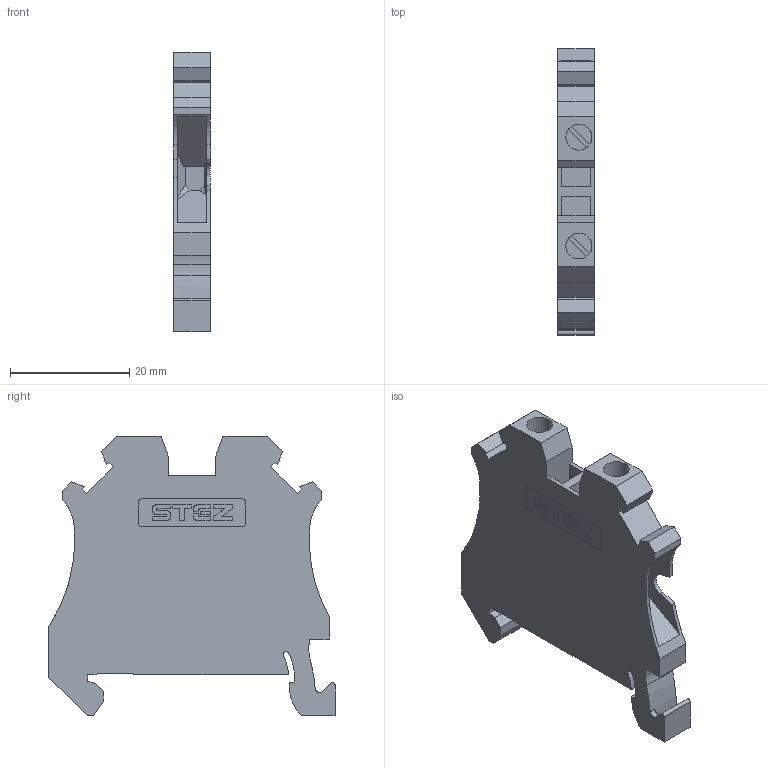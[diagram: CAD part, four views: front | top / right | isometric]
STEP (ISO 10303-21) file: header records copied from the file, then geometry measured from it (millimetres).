
FILE_DESCRIPTION(('TFLEX Exchange Step'),'2;1');
FILE_NAME('11000017_KHB_4-2-O.stp', '2023-10-03T09:31:03+03:00',('apanin'),('Unknown organisation'),'TFLEX Exchange 2023.0','T-FLEX CAD','Unknown authorisation');
FILE_SCHEMA( ('AUTOMOTIVE_DESIGN { 1 0 10303 214 1 1 1 1 }') );
Length unit declared in the file: millimetre
Products named in the file (1): Тело_1 - 1:1
Bounding box: 6.15 x 48 x 46.85 mm (x, y, z)
Volume: 8334.2 mm3; surface area: 5767.6 mm2
Topology: 1 solids, 1 shells, 362 faces, 1051 edges, 700 vertices
Faces by surface type: cylinder 191, plane 171
Full cylindrical faces by diameter (mm): 4.35 x2
Entity records: 12101 total; most frequent: CARTESIAN_POINT 2146, DIRECTION 2144, ORIENTED_EDGE 2102, EDGE_CURVE 1051, AXIS2_PLACEMENT_3D 762, VERTEX_POINT 700, VECTOR 620, LINE 620
